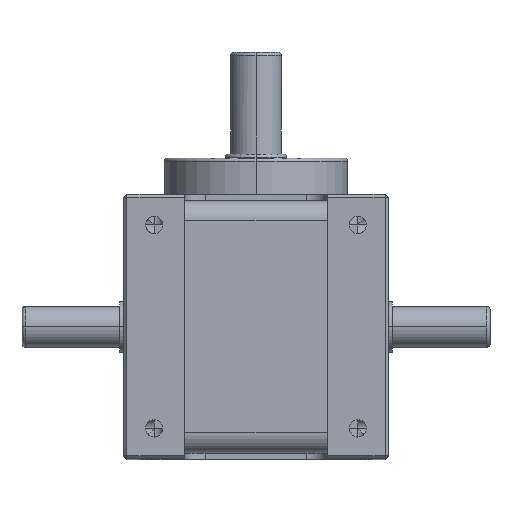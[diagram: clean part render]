
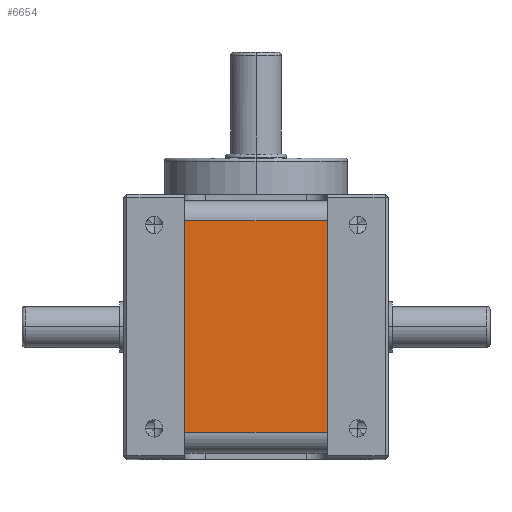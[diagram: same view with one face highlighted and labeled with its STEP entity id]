
A CAD part, top view. The second image highlights one B-rep face of the part: STEP entity #6654.
In plain terms, the highlighted planar face has unit normal (0, 0, 1).
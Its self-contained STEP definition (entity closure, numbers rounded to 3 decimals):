
#509 = PLANE ( 'NONE',  #734 ) ;
#732 = VERTEX_POINT ( 'NONE', #10910 ) ;
#734 = AXIS2_PLACEMENT_3D ( 'NONE', #24675, #21910, #19172 ) ;
#2436 = DIRECTION ( 'NONE',  ( 0., -1., 0. ) ) ;
#3261 = DIRECTION ( 'NONE',  ( 1., 0., 0. ) ) ;
#4050 = ORIENTED_EDGE ( 'NONE', *, *, #16544, .T. ) ;
#5093 = EDGE_LOOP ( 'NONE', ( #11081, #4050, #5762, #10764 ) ) ;
#5187 = CARTESIAN_POINT ( 'NONE',  ( -100., 130., -3. ) ) ;
#5762 = ORIENTED_EDGE ( 'NONE', *, *, #26569, .T. ) ;
#6004 = CARTESIAN_POINT ( 'NONE',  ( -30., 13., -3. ) ) ;
#6654 = ADVANCED_FACE ( 'NONE', ( #24184 ), #509, .T. ) ;
#7287 = VERTEX_POINT ( 'NONE', #9353 ) ;
#7919 = LINE ( 'NONE', #5187, #25610 ) ;
#9353 = CARTESIAN_POINT ( 'NONE',  ( -100., 117., -3. ) ) ;
#10572 = VERTEX_POINT ( 'NONE', #17723 ) ;
#10764 = ORIENTED_EDGE ( 'NONE', *, *, #19058, .T. ) ;
#10876 = DIRECTION ( 'NONE',  ( -1., 0., 0. ) ) ;
#10910 = CARTESIAN_POINT ( 'NONE',  ( -30., 117., -3. ) ) ;
#11081 = ORIENTED_EDGE ( 'NONE', *, *, #23979, .T. ) ;
#12179 = LINE ( 'NONE', #6004, #19183 ) ;
#12722 = DIRECTION ( 'NONE',  ( 0., 1., 0. ) ) ;
#13640 = CARTESIAN_POINT ( 'NONE',  ( -100., 117., -3. ) ) ;
#15317 = CARTESIAN_POINT ( 'NONE',  ( -30., 13., -3. ) ) ;
#15486 = CARTESIAN_POINT ( 'NONE',  ( -30., 130., -3. ) ) ;
#15494 = VECTOR ( 'NONE', #12722, 1000. ) ;
#16417 = LINE ( 'NONE', #13640, #26408 ) ;
#16544 = EDGE_CURVE ( 'NONE', #10572, #18439, #12179, .T. ) ;
#17723 = CARTESIAN_POINT ( 'NONE',  ( -100., 13., -3. ) ) ;
#18239 = LINE ( 'NONE', #15486, #15494 ) ;
#18439 = VERTEX_POINT ( 'NONE', #15317 ) ;
#19058 = EDGE_CURVE ( 'NONE', #732, #7287, #16417, .T. ) ;
#19172 = DIRECTION ( 'NONE',  ( 1., 0., 0. ) ) ;
#19183 = VECTOR ( 'NONE', #3261, 1000. ) ;
#21910 = DIRECTION ( 'NONE',  ( 0., 0., 1. ) ) ;
#23979 = EDGE_CURVE ( 'NONE', #7287, #10572, #7919, .T. ) ;
#24184 = FACE_OUTER_BOUND ( 'NONE', #5093, .T. ) ;
#24675 = CARTESIAN_POINT ( 'NONE',  ( -100., 0., -3. ) ) ;
#25610 = VECTOR ( 'NONE', #2436, 1000. ) ;
#26408 = VECTOR ( 'NONE', #10876, 1000. ) ;
#26569 = EDGE_CURVE ( 'NONE', #18439, #732, #18239, .T. ) ;
